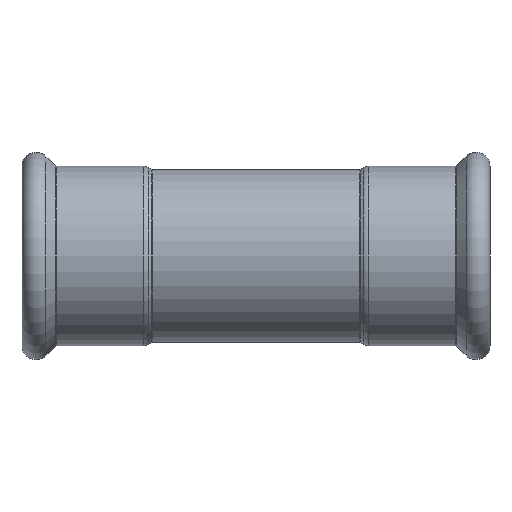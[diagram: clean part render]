
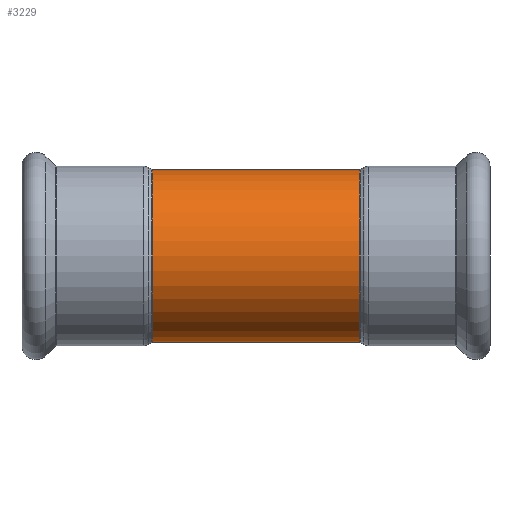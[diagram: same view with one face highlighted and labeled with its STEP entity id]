
A CAD part, front view. The second image highlights one B-rep face of the part: STEP entity #3229.
In plain terms, the highlighted cylindrical face has radius 18.5 mm (diameter 37 mm), a partial arc.
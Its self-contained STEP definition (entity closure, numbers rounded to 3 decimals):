
#1 = CARTESIAN_POINT ( 'NONE',  ( -22.154, 0., 18.5 ) ) ;
#91 = DIRECTION ( 'NONE',  ( -1., 0., 0. ) ) ;
#330 = CARTESIAN_POINT ( 'NONE',  ( 22.154, 0., 18.5 ) ) ;
#510 = DIRECTION ( 'NONE',  ( -1., 0., 0. ) ) ;
#575 = VECTOR ( 'NONE', #3808, 1000. ) ;
#591 = AXIS2_PLACEMENT_3D ( 'NONE', #3115, #91, #2902 ) ;
#844 = EDGE_CURVE ( 'NONE', #3888, #1770, #1129, .T. ) ;
#870 = CARTESIAN_POINT ( 'NONE',  ( 27.146, 0., -18.5 ) ) ;
#1097 = LINE ( 'NONE', #3853, #3009 ) ;
#1129 = CIRCLE ( 'NONE', #2016, 18.5 ) ;
#1336 = VERTEX_POINT ( 'NONE', #1804 ) ;
#1507 = AXIS2_PLACEMENT_3D ( 'NONE', #3470, #510, #3125 ) ;
#1509 = CARTESIAN_POINT ( 'NONE',  ( 22.154, 0., 0. ) ) ;
#1617 = ORIENTED_EDGE ( 'NONE', *, *, #3840, .F. ) ;
#1770 = VERTEX_POINT ( 'NONE', #330 ) ;
#1804 = CARTESIAN_POINT ( 'NONE',  ( -22.154, 0., -18.5 ) ) ;
#1945 = ORIENTED_EDGE ( 'NONE', *, *, #844, .T. ) ;
#2006 = ORIENTED_EDGE ( 'NONE', *, *, #2881, .F. ) ;
#2016 = AXIS2_PLACEMENT_3D ( 'NONE', #1509, #4107, #3796 ) ;
#2169 = CARTESIAN_POINT ( 'NONE',  ( 22.154, 0., -18.5 ) ) ;
#2212 = ORIENTED_EDGE ( 'NONE', *, *, #2344, .T. ) ;
#2344 = EDGE_CURVE ( 'NONE', #1770, #4147, #1097, .T. ) ;
#2511 = DIRECTION ( 'NONE',  ( -1., 0., 0. ) ) ;
#2604 = EDGE_LOOP ( 'NONE', ( #1617, #1945, #2212, #2006 ) ) ;
#2881 = EDGE_CURVE ( 'NONE', #1336, #4147, #3418, .T. ) ;
#2902 = DIRECTION ( 'NONE',  ( 0., 0., 1. ) ) ;
#3009 = VECTOR ( 'NONE', #2511, 1000. ) ;
#3057 = CYLINDRICAL_SURFACE ( 'NONE', #591, 18.5 ) ;
#3115 = CARTESIAN_POINT ( 'NONE',  ( 27.146, 0., 0. ) ) ;
#3125 = DIRECTION ( 'NONE',  ( 0., 0., 1. ) ) ;
#3158 = LINE ( 'NONE', #870, #575 ) ;
#3229 = ADVANCED_FACE ( 'NONE', ( #3525 ), #3057, .T. ) ;
#3418 = CIRCLE ( 'NONE', #1507, 18.5 ) ;
#3470 = CARTESIAN_POINT ( 'NONE',  ( -22.154, 0., 0. ) ) ;
#3525 = FACE_OUTER_BOUND ( 'NONE', #2604, .T. ) ;
#3796 = DIRECTION ( 'NONE',  ( 0., 0., 1. ) ) ;
#3808 = DIRECTION ( 'NONE',  ( -1., 0., 0. ) ) ;
#3840 = EDGE_CURVE ( 'NONE', #3888, #1336, #3158, .T. ) ;
#3853 = CARTESIAN_POINT ( 'NONE',  ( 27.146, 0., 18.5 ) ) ;
#3888 = VERTEX_POINT ( 'NONE', #2169 ) ;
#4107 = DIRECTION ( 'NONE',  ( -1., 0., 0. ) ) ;
#4147 = VERTEX_POINT ( 'NONE', #1 ) ;
